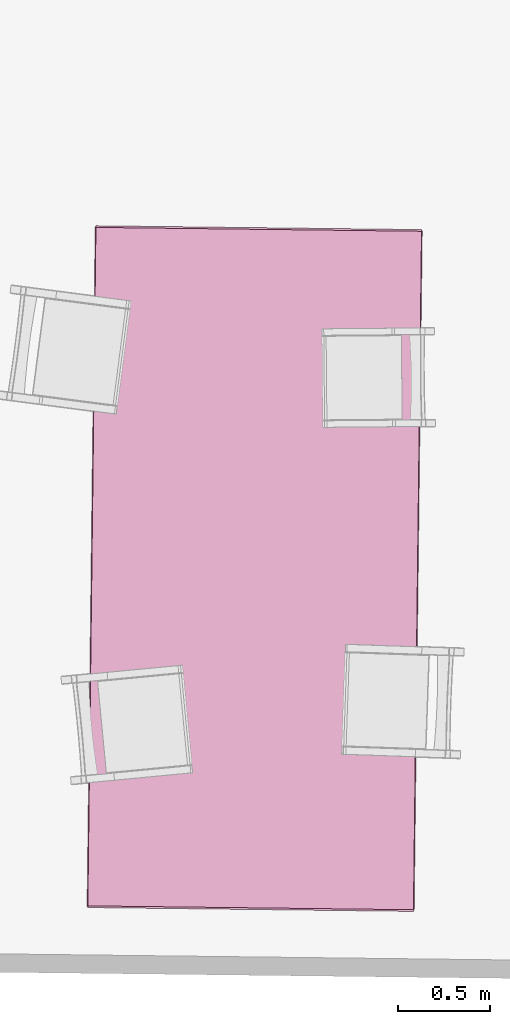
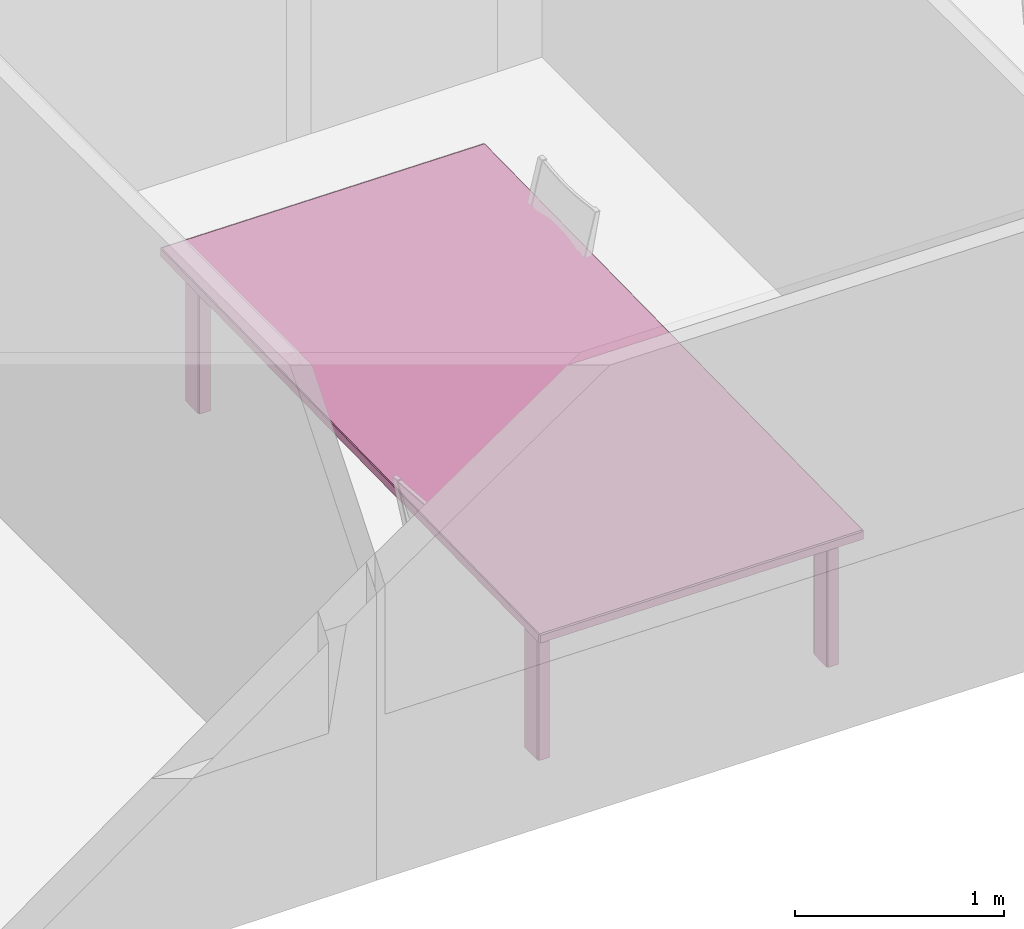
# One storey, part 8 of 26: 1 furniture element.
"""IFC4 building model written with IfcOpenShell, lengths in metres."""

import ifcopenshell
import ifcopenshell.guid

model = None  # the IFC model being written
_history = None  # IfcOwnerHistory: only IFC2X3 demands one
_inside = {}  # id of a spatial element -> (the spatial element, [elements in it])
_under = {}  # id of a project, library or spatial element -> (it, [spatial elements below it])
_declared = {}  # id of a project -> (the project, [libraries it declares])
_typed = {}  # id of a type object -> (the type object, [elements of that type])
_made_of = {}  # id of a material, layer set ... -> (it, [elements and type objects made of it])


def new_model(schema):
    """Start an empty IFC model of exactly this schema.

    Asked for "IFC4X3", IfcOpenShell would pick the latest addendum, in which some entities
    have other attributes; the version numbers below select the first issue.
    IFC2X3 requires an IfcOwnerHistory on every rooted entity: one is made here for all.
    """
    global model, _history
    if schema == "IFC4X3":
        model = ifcopenshell.file(schema_version=(4, 3, 0, 0))
    else:
        model = ifcopenshell.file(schema=schema)
    _inside.clear()
    _under.clear()
    _declared.clear()
    _typed.clear()
    _made_of.clear()
    _history = None
    if model.schema == "IFC2X3":
        org = make("IfcOrganization", Name="unknown")
        user = make(
            "IfcPersonAndOrganization",
            ThePerson=make("IfcPerson", FamilyName="unknown"),
            TheOrganization=org,
        )
        app = make(
            "IfcApplication",
            ApplicationDeveloper=org,
            Version="unknown",
            ApplicationFullName="unknown",
            ApplicationIdentifier="unknown",
        )
        _history = make(
            "IfcOwnerHistory",
            OwningUser=user,
            OwningApplication=app,
            ChangeAction="ADDED",
            CreationDate=0,
        )
    return model


def make(cls, **values):
    """One entity of the class cls with the attributes given. An attribute that is None is left unset."""
    return model.create_entity(
        cls, **{name: value for name, value in values.items() if value is not None}
    )


def rooted(cls, **values):
    """An entity with a GlobalId (a new one), such as an element, a storey or a relation."""
    return make(cls, GlobalId=ifcopenshell.guid.new(), OwnerHistory=_history, **values)


def si_unit(unit_type, name, prefix=None):
    """IfcSIUnit, for example si_unit("LENGTHUNIT", "METRE", prefix="MILLI")."""
    return make("IfcSIUnit", UnitType=unit_type, Prefix=prefix, Name=name)


def assignment(units):
    """IfcUnitAssignment: the units of a project."""
    return None if units is None else make("IfcUnitAssignment", Units=units)


def point(xyz):
    """IfcCartesianPoint."""
    return None if xyz is None else make("IfcCartesianPoint", Coordinates=xyz)


def direction(xyz):
    """IfcDirection."""
    return None if xyz is None else make("IfcDirection", DirectionRatios=xyz)


def frame(location, z_axis=None, x_axis=None):
    """IfcAxis2Placement3D, a coordinate frame: its origin and axes. An axis left out is left unset."""
    return make(
        "IfcAxis2Placement3D",
        Location=point(location),
        Axis=direction(z_axis),
        RefDirection=direction(x_axis),
    )


def origin_with_axes():
    """The frame at (0, 0, 0) with the z axis (0, 0, 1) and the x axis (1, 0, 0) written out."""
    return frame((0.0, 0.0, 0.0), z_axis=(0.0, 0.0, 1.0), x_axis=(1.0, 0.0, 0.0))


def place(relative_to, where):
    """IfcLocalPlacement: puts the frame where relative to a parent placement (None: the world)."""
    return make(
        "IfcLocalPlacement", PlacementRelTo=relative_to, RelativePlacement=where
    )


def context(
    kind, dimensions, precision=None, world=None, true_north=None, identifier=None
):
    """IfcGeometricRepresentationContext, for example the 3D "Model" context."""
    return make(
        "IfcGeometricRepresentationContext",
        ContextIdentifier=identifier,
        ContextType=kind,
        CoordinateSpaceDimension=dimensions,
        Precision=precision,
        WorldCoordinateSystem=world,
        TrueNorth=true_north,
    )


def project(units=None, contexts=None):
    """IfcProject with its units and contexts."""
    return rooted(
        "IfcProject",
        Name="project",
        RepresentationContexts=contexts,
        UnitsInContext=assignment(units),
    )


def spatial(cls, under=None, at=None, **own):
    """A site, building, storey or space (cls), placed at a placement, below another one or the project."""
    s = rooted(cls, ObjectPlacement=at, **own)
    if under is not None:
        _under.setdefault(under.id(), (under, []))[1].append(s)
    return s


def point_list(points):
    """IfcCartesianPointList2D or 3D."""
    cls = (
        "IfcCartesianPointList2D" if len(points[0]) == 2 else "IfcCartesianPointList3D"
    )
    return make(cls, CoordList=points)


def polygons(points, faces, closed=None, point_numbers=None):
    """IfcPolygonalFaceSet: a face is its outer loop, then its inner loops; points numbered from 1."""
    made = []
    for loops in faces:
        if len(loops) == 1:
            made.append(make("IfcIndexedPolygonalFace", CoordIndex=loops[0]))
        else:
            made.append(
                make(
                    "IfcIndexedPolygonalFaceWithVoids",
                    CoordIndex=loops[0],
                    InnerCoordIndices=loops[1:],
                )
            )
    return make(
        "IfcPolygonalFaceSet",
        Coordinates=point_list(points),
        Closed=closed,
        Faces=made,
        PnIndex=point_numbers,
    )


def shape(context_of_items, identifier, shape_type, items):
    """IfcShapeRepresentation: the items that make up one representation, for example the "Body"."""
    return make(
        "IfcShapeRepresentation",
        ContextOfItems=context_of_items,
        RepresentationIdentifier=identifier,
        RepresentationType=shape_type,
        Items=items,
    )


def made_of(thing, what):
    """Note that an element or type object is made of a material, layer set ...; save() writes the relation."""
    if what is not None:
        _made_of.setdefault(what.id(), (what, []))[1].append(thing)
    return thing


def type_object(cls, material=None, **own):
    """A type object (cls), such as IfcWallType, which elements share."""
    return made_of(rooted(cls, **own), material)


def element(
    cls,
    number,
    at=None,
    inside=None,
    cuts=None,
    type_object=None,
    material=None,
    context=None,
    identifier="Body",
    shape_type=None,
    held_by="IfcProductDefinitionShape",
    body=None,
    shapes=None,
    **own,
):
    """One element of the class cls, such as IfcWall. Its Tag is "e" and its number.

    at: its placement. inside: the storey or other place that contains it. cuts: it is an
    opening in that element (IfcRelVoidsElement). A single representation is given by context,
    identifier, shape_type and body (its items); several are given by shapes. held_by: the class
    of the entity that holds the representations. save() writes the other relations.
    """
    e = rooted(cls, Tag="e%d" % number, ObjectPlacement=at, **own)
    if body is not None:
        shapes = [shape(context, identifier, shape_type, body)]
    if shapes is not None:
        e.Representation = make(held_by, Representations=shapes)
    if inside is not None:
        _inside.setdefault(inside.id(), (inside, []))[1].append(e)
    if cuts is not None:
        rooted(
            "IfcRelVoidsElement", RelatingBuildingElement=cuts, RelatedOpeningElement=e
        )
    if type_object is not None:
        _typed.setdefault(type_object.id(), (type_object, []))[1].append(e)
    return made_of(e, material)


def aggregate(whole, parts):
    """IfcRelAggregates: a whole, such as a stair, and the parts it consists of."""
    return rooted("IfcRelAggregates", RelatingObject=whole, RelatedObjects=parts)


def save(model, path):
    """Write the relations noted so far, then the file.

    IfcRelAggregates (storeys below a building ...), IfcRelContainedInSpatialStructure (elements
    in a storey), IfcRelDefinesByType, IfcRelAssociatesMaterial and IfcRelDeclares: one each for
    every whole, place, type object, material and project.
    """
    for whole, parts in _under.values():
        aggregate(whole, parts)
    for where, things in _inside.values():
        rooted(
            "IfcRelContainedInSpatialStructure",
            RelatedElements=things,
            RelatingStructure=where,
        )
    for kind, things in _typed.values():
        rooted("IfcRelDefinesByType", RelatedObjects=things, RelatingType=kind)
    for what, things in _made_of.values():
        rooted("IfcRelAssociatesMaterial", RelatedObjects=things, RelatingMaterial=what)
    for by, libraries in _declared.values():
        rooted("IfcRelDeclares", RelatingContext=by, RelatedDefinitions=libraries)
    model.write(path)


model = new_model("IFC4")

# Units and contexts
model_context = context("Model", 3, precision=1e-05, world=origin_with_axes(), true_north=direction((0.996, -0.093, 0.0)))
ifc_project = project(units=[si_unit("LENGTHUNIT", "METRE"), si_unit("AREAUNIT", "SQUARE_METRE")], contexts=[model_context])

# Site, building, storey, space
site_placement = place(None, origin_with_axes())
site = spatial("IfcSite", under=ifc_project, at=site_placement, Name="Site", CompositionType="ELEMENT")
building_placement = place(site_placement, origin_with_axes())
building = spatial("IfcBuilding", under=site, at=building_placement, Name="Building", CompositionType="ELEMENT")
storey_placement = place(building_placement, frame((0.0, 0.0, 0.0500001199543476), z_axis=(0.0, 0.0, 1.0), x_axis=(1.0, 0.0, 0.0)))
storey = spatial("IfcBuildingStorey", under=building, at=storey_placement, Name="Story 0", CompositionType="ELEMENT", Elevation=0.0500000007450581)
space_placement = place(storey_placement, frame((5.97818655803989, 0.769222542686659, 0.0), z_axis=(0.0, 0.0, 1.0), x_axis=(1.0, 0.0, 0.0)))
space = spatial("IfcSpace", under=storey, at=space_placement, Name="003", CompositionType="ELEMENT")

# Furniture
furniture_type = type_object("IfcFurnitureType", Name="ba008512-6eb1-4f86-9ee1-701c55b127c1", AssemblyPlace="NOTDEFINED", PredefinedType="USERDEFINED")
furniture_placement = place(space_placement, frame((-2.10680193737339, -3.3640239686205, 0.419875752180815), z_axis=(0.0, 0.0, 1.00000002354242), x_axis=(-0.999929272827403, 0.0118987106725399, 0.0)))
element("IfcFurniture", 1, at=furniture_placement, inside=space, type_object=furniture_type, Name="Table", ObjectType="Table", PredefinedType="USERDEFINED", context=model_context, shape_type="Tessellation", body=[
    polygons([(0.8865, 1.8568, 0.3712), (-0.8865, 1.8568, 0.3712), (0.8865, 1.8568, 0.4162), (-0.8865, 1.8568, 0.4162), (0.8865, 1.8568, 0.4162), (-0.8865, 1.8568, 0.3712), (0.7599, -1.7193, 0.3806), (0.7599, -1.5975, 0.3806), (0.7599, -1.7193, -0.4162), (0.7599, -1.5975, -0.4162), (0.7599, -1.7193, -0.4162), (0.7599, -1.5975, 0.3806), (0.8228, -1.7286, 0.3806), (0.7644, -1.7286, 0.3806), (0.8228, -1.7286, -0.4162), (0.7644, -1.7286, -0.4162), (0.8228, -1.7286, -0.4162), (0.7644, -1.7286, 0.3806), (0.8273, -1.5975, 0.3806), (0.8273, -1.7193, 0.3806), (0.8273, -1.5975, -0.4162), (0.8273, -1.7193, -0.4162), (0.8273, -1.5975, -0.4162), (0.8273, -1.7193, 0.3806), (0.7644, -1.5882, 0.3806), (0.8228, -1.5882, 0.3806), (0.7644, -1.5882, -0.4162), (0.8228, -1.5882, -0.4162), (0.7644, -1.5882, -0.4162), (0.8228, -1.5882, 0.3806), (0.7599, 1.7193, 0.3806), (0.7599, 1.7193, -0.4162), (0.7599, 1.5975, 0.3806), (0.7599, 1.5975, -0.4162), (0.7599, 1.5975, 0.3806), (0.7599, 1.7193, -0.4162), (0.8228, 1.7286, 0.3806), (0.8228, 1.7286, -0.4162), (0.7644, 1.7286, 0.3806), (0.7644, 1.7286, -0.4162), (0.7644, 1.7286, 0.3806), (0.8228, 1.7286, -0.4162), (0.8273, 1.5975, 0.3806), (0.8273, 1.5975, -0.4162), (0.8273, 1.7193, 0.3806), (0.8273, 1.7193, -0.4162), (0.8273, 1.7193, 0.3806), (0.8273, 1.5975, -0.4162), (0.7644, 1.5882, 0.3806), (0.7644, 1.5882, -0.4162), (0.8228, 1.5882, 0.3806), (0.8228, 1.5882, -0.4162), (0.8228, 1.5882, 0.3806), (0.7644, 1.5882, -0.4162), (0.891, 1.8475, 0.3712), (0.891, 1.8475, 0.4162), (0.891, -1.8475, 0.3712), (0.891, -1.8475, 0.4162), (0.891, -1.8475, 0.3712), (0.891, 1.8475, 0.4162), (-0.891, 1.8475, 0.4162), (-0.891, 1.8475, 0.3712), (-0.891, -1.8475, 0.4162), (-0.891, -1.8475, 0.3712), (-0.891, -1.8475, 0.4162), (-0.891, 1.8475, 0.3712), (-0.7599, -1.7193, 0.3806), (-0.7599, -1.7193, -0.4162), (-0.7599, -1.5975, 0.3806), (-0.7599, -1.5975, -0.4162), (-0.7599, -1.5975, 0.3806), (-0.7599, -1.7193, -0.4162), (-0.8228, -1.7286, 0.3806), (-0.8228, -1.7286, -0.4162), (-0.7644, -1.7286, 0.3806), (-0.7644, -1.7286, -0.4162), (-0.7644, -1.7286, 0.3806), (-0.8228, -1.7286, -0.4162), (-0.8273, -1.5975, 0.3806), (-0.8273, -1.5975, -0.4162), (-0.8273, -1.7193, 0.3806), (-0.8273, -1.7193, -0.4162), (-0.8273, -1.7193, 0.3806), (-0.8273, -1.5975, -0.4162), (-0.7644, -1.5882, 0.3806), (-0.7644, -1.5882, -0.4162), (-0.8228, -1.5882, 0.3806), (-0.8228, -1.5882, -0.4162), (-0.8228, -1.5882, 0.3806), (-0.7644, -1.5882, -0.4162), (-0.7599, 1.7193, 0.3806), (-0.7599, 1.5975, 0.3806), (-0.7599, 1.7193, -0.4162), (-0.7599, 1.5975, -0.4162), (-0.7599, 1.7193, -0.4162), (-0.7599, 1.5975, 0.3806), (-0.8228, 1.7286, 0.3806), (-0.7644, 1.7286, 0.3806), (-0.8228, 1.7286, -0.4162), (-0.7644, 1.7286, -0.4162), (-0.8228, 1.7286, -0.4162), (-0.7644, 1.7286, 0.3806), (-0.8273, 1.5975, 0.3806), (-0.8273, 1.7193, 0.3806), (-0.8273, 1.5975, -0.4162), (-0.8273, 1.7193, -0.4162), (-0.8273, 1.5975, -0.4162), (-0.8273, 1.7193, 0.3806), (-0.7644, 1.5882, 0.3806), (-0.8228, 1.5882, 0.3806), (-0.7644, 1.5882, -0.4162), (-0.8228, 1.5882, -0.4162), (-0.7644, 1.5882, -0.4162), (-0.8228, 1.5882, 0.3806), (-0.8865, 1.8475, 0.4199), (-0.8865, -1.8475, 0.4199), (0.8865, 1.8475, 0.4199), (0.8865, -1.8475, 0.4199), (0.8865, 1.8475, 0.4199), (-0.8865, -1.8475, 0.4199), (0.8865, -1.8568, 0.3712), (0.8865, -1.8568, 0.4162), (-0.8865, -1.8568, 0.3712), (-0.8865, -1.8568, 0.4162), (-0.8865, -1.8568, 0.3712), (0.8865, -1.8568, 0.4162), (0.8865, -1.8475, 0.3675), (-0.8865, -1.8475, 0.3675), (0.8865, 1.8475, 0.3675), (-0.8865, 1.8475, 0.3675), (0.8865, 1.8475, 0.3675), (-0.8865, -1.8475, 0.3675), (0.8228, -1.7193, 0.3843), (0.8228, -1.5975, 0.3843), (0.7644, -1.7193, 0.3843), (0.7644, -1.5975, 0.3843), (0.7644, -1.7193, 0.3843), (0.8228, -1.5975, 0.3843), (0.8228, -1.5975, -0.4199), (0.8228, -1.7193, -0.4199), (0.7644, -1.5975, -0.4199), (0.7644, -1.7193, -0.4199), (0.7644, -1.5975, -0.4199), (0.8228, -1.7193, -0.4199), (0.8228, 1.7193, -0.4199), (0.8228, 1.5975, -0.4199), (0.7644, 1.7193, -0.4199), (0.7644, 1.5975, -0.4199), (0.7644, 1.7193, -0.4199), (0.8228, 1.5975, -0.4199), (0.8228, 1.5975, 0.3843), (0.8228, 1.7193, 0.3843), (0.7644, 1.5975, 0.3843), (0.7644, 1.7193, 0.3843), (0.7644, 1.5975, 0.3843), (0.8228, 1.7193, 0.3843), (-0.8228, -1.7193, -0.4199), (-0.8228, -1.5975, -0.4199), (-0.7644, -1.7193, -0.4199), (-0.7644, -1.5975, -0.4199), (-0.7644, -1.7193, -0.4199), (-0.8228, -1.5975, -0.4199), (-0.8228, -1.5975, 0.3843), (-0.8228, -1.7193, 0.3843), (-0.7644, -1.5975, 0.3843), (-0.7644, -1.7193, 0.3843), (-0.7644, -1.5975, 0.3843), (-0.8228, -1.7193, 0.3843), (-0.8228, 1.7193, 0.3843), (-0.8228, 1.5975, 0.3843), (-0.7644, 1.7193, 0.3843), (-0.7644, 1.5975, 0.3843), (-0.7644, 1.7193, 0.3843), (-0.8228, 1.5975, 0.3843), (-0.8228, 1.5975, -0.4199), (-0.8228, 1.7193, -0.4199), (-0.7644, 1.5975, -0.4199), (-0.7644, 1.7193, -0.4199), (-0.7644, 1.5975, -0.4199), (-0.8228, 1.7193, -0.4199), (-0.8865, 1.8475, 0.4199), (-0.8865, 1.8568, 0.4162), (-0.891, 1.8475, 0.4162), (0.7644, -1.5975, -0.4199), (0.7599, -1.5975, -0.4162), (0.7644, -1.5882, -0.4162), (0.7644, -1.7193, -0.4199), (0.7644, -1.7286, -0.4162), (0.7599, -1.7193, -0.4162), (0.8228, -1.7193, -0.4199), (0.8273, -1.7193, -0.4162), (0.8228, -1.7286, -0.4162), (0.8228, -1.5975, -0.4199), (0.8228, -1.5882, -0.4162), (0.8273, -1.5975, -0.4162), (0.7644, -1.5975, 0.3843), (0.7644, -1.5882, 0.3806), (0.7599, -1.5975, 0.3806), (0.7644, 1.5882, -0.4162), (0.7599, 1.5975, -0.4162), (0.7644, 1.5975, -0.4199), (0.7644, 1.7193, 0.3843), (0.7644, 1.7286, 0.3806), (0.7599, 1.7193, 0.3806), (0.8228, 1.7193, 0.3843), (0.8273, 1.7193, 0.3806), (0.8228, 1.7286, 0.3806), (0.8228, 1.5975, 0.3843), (0.8228, 1.5882, 0.3806), (0.8273, 1.5975, 0.3806), (0.8865, -1.8568, 0.4162), (0.891, -1.8475, 0.4162), (0.8865, -1.8475, 0.4199), (0.8865, 1.8475, 0.4199), (0.891, 1.8475, 0.4162), (0.8865, 1.8568, 0.4162), (-0.8865, -1.8568, 0.3712), (-0.891, -1.8475, 0.3712), (-0.8865, -1.8475, 0.3675), (-0.8865, 1.8475, 0.3675), (-0.891, 1.8475, 0.3712), (-0.8865, 1.8568, 0.3712), (-0.7644, -1.5882, -0.4162), (-0.7599, -1.5975, -0.4162), (-0.7644, -1.5975, -0.4199), (-0.7644, -1.7193, 0.3843), (-0.7644, -1.7286, 0.3806), (-0.7599, -1.7193, 0.3806), (-0.8228, -1.7193, 0.3843), (-0.8273, -1.7193, 0.3806), (-0.8228, -1.7286, 0.3806), (-0.8228, -1.5975, 0.3843), (-0.8228, -1.5882, 0.3806), (-0.8273, -1.5975, 0.3806), (-0.7644, 1.5975, -0.4199), (-0.7599, 1.5975, -0.4162), (-0.7644, 1.5882, -0.4162), (-0.7644, 1.7193, -0.4199), (-0.7644, 1.7286, -0.4162), (-0.7599, 1.7193, -0.4162), (-0.8228, 1.7193, -0.4199), (-0.8273, 1.7193, -0.4162), (-0.8228, 1.7286, -0.4162), (-0.8228, 1.5975, -0.4199), (-0.8228, 1.5882, -0.4162), (-0.8273, 1.5975, -0.4162), (-0.7644, 1.5975, 0.3843), (-0.7644, 1.5882, 0.3806), (-0.7599, 1.5975, 0.3806), (-0.8865, -1.8568, 0.4162), (-0.8865, -1.8475, 0.4199), (-0.891, -1.8475, 0.4162), (0.8865, -1.8568, 0.3712), (0.8865, -1.8475, 0.3675), (0.891, -1.8475, 0.3712), (0.891, 1.8475, 0.3712), (0.8865, 1.8475, 0.3675), (0.8865, 1.8568, 0.3712), (0.8228, -1.5882, 0.3806), (0.8228, -1.5975, 0.3843), (0.8273, -1.5975, 0.3806), (0.8273, -1.7193, 0.3806), (0.8228, -1.7193, 0.3843), (0.8228, -1.7286, 0.3806), (0.7644, -1.7286, 0.3806), (0.7644, -1.7193, 0.3843), (0.7599, -1.7193, 0.3806), (0.8228, 1.5882, -0.4162), (0.8228, 1.5975, -0.4199), (0.8273, 1.5975, -0.4162), (0.8273, 1.7193, -0.4162), (0.8228, 1.7193, -0.4199), (0.8228, 1.7286, -0.4162), (0.7644, 1.7286, -0.4162), (0.7644, 1.7193, -0.4199), (0.7599, 1.7193, -0.4162), (0.7644, 1.5882, 0.3806), (0.7644, 1.5975, 0.3843), (0.7599, 1.5975, 0.3806), (-0.8228, -1.5882, -0.4162), (-0.8228, -1.5975, -0.4199), (-0.8273, -1.5975, -0.4162), (-0.8273, -1.7193, -0.4162), (-0.8228, -1.7193, -0.4199), (-0.8228, -1.7286, -0.4162), (-0.7644, -1.7286, -0.4162), (-0.7644, -1.7193, -0.4199), (-0.7599, -1.7193, -0.4162), (-0.7644, -1.5882, 0.3806), (-0.7644, -1.5975, 0.3843), (-0.7599, -1.5975, 0.3806), (-0.8228, 1.5882, 0.3806), (-0.8228, 1.5975, 0.3843), (-0.8273, 1.5975, 0.3806), (-0.8273, 1.7193, 0.3806), (-0.8228, 1.7193, 0.3843), (-0.8228, 1.7286, 0.3806), (-0.7644, 1.7286, 0.3806), (-0.7644, 1.7193, 0.3843), (-0.7599, 1.7193, 0.3806), (-0.8865, 1.8568, 0.4162), (-0.8865, 1.8568, 0.3712), (-0.891, 1.8475, 0.4162), (-0.891, 1.8475, 0.3712), (-0.891, 1.8475, 0.4162), (-0.8865, 1.8568, 0.3712), (-0.8865, 1.8568, 0.3712), (0.8865, 1.8568, 0.3712), (-0.8865, 1.8475, 0.3675), (0.8865, 1.8475, 0.3675), (-0.8865, 1.8475, 0.3675), (0.8865, 1.8568, 0.3712), (0.8865, 1.8568, 0.3712), (0.8865, 1.8568, 0.4162), (0.891, 1.8475, 0.3712), (0.891, 1.8475, 0.4162), (0.891, 1.8475, 0.3712), (0.8865, 1.8568, 0.4162), (0.8865, 1.8568, 0.4162), (-0.8865, 1.8568, 0.4162), (0.8865, 1.8475, 0.4199), (-0.8865, 1.8475, 0.4199), (0.8865, 1.8475, 0.4199), (-0.8865, 1.8568, 0.4162), (0.7599, -1.5975, -0.4162), (0.7599, -1.5975, 0.3806), (0.7644, -1.5882, -0.4162), (0.7644, -1.5882, 0.3806), (0.7644, -1.5882, -0.4162), (0.7599, -1.5975, 0.3806), (0.7599, -1.5975, 0.3806), (0.7599, -1.7193, 0.3806), (0.7644, -1.5975, 0.3843), (0.7644, -1.7193, 0.3843), (0.7644, -1.5975, 0.3843), (0.7599, -1.7193, 0.3806), (0.7599, -1.7193, 0.3806), (0.7599, -1.7193, -0.4162), (0.7644, -1.7286, 0.3806), (0.7644, -1.7286, -0.4162), (0.7644, -1.7286, 0.3806), (0.7599, -1.7193, -0.4162), (0.7599, -1.7193, -0.4162), (0.7599, -1.5975, -0.4162), (0.7644, -1.7193, -0.4199), (0.7644, -1.5975, -0.4199), (0.7644, -1.7193, -0.4199), (0.7599, -1.5975, -0.4162), (0.7644, -1.7286, 0.3806), (0.8228, -1.7286, 0.3806), (0.7644, -1.7193, 0.3843), (0.8228, -1.7193, 0.3843), (0.7644, -1.7193, 0.3843), (0.8228, -1.7286, 0.3806), (0.8228, -1.7286, 0.3806), (0.8228, -1.7286, -0.4162), (0.8273, -1.7193, 0.3806), (0.8273, -1.7193, -0.4162), (0.8273, -1.7193, 0.3806), (0.8228, -1.7286, -0.4162), (0.8228, -1.7286, -0.4162), (0.7644, -1.7286, -0.4162), (0.8228, -1.7193, -0.4199), (0.7644, -1.7193, -0.4199), (0.8228, -1.7193, -0.4199), (0.7644, -1.7286, -0.4162), (0.8273, -1.7193, 0.3806), (0.8273, -1.5975, 0.3806), (0.8228, -1.7193, 0.3843), (0.8228, -1.5975, 0.3843), (0.8228, -1.7193, 0.3843), (0.8273, -1.5975, 0.3806), (0.8273, -1.5975, 0.3806), (0.8273, -1.5975, -0.4162), (0.8228, -1.5882, 0.3806), (0.8228, -1.5882, -0.4162), (0.8228, -1.5882, 0.3806), (0.8273, -1.5975, -0.4162), (0.8273, -1.5975, -0.4162), (0.8273, -1.7193, -0.4162), (0.8228, -1.5975, -0.4199), (0.8228, -1.7193, -0.4199), (0.8228, -1.5975, -0.4199), (0.8273, -1.7193, -0.4162), (0.8228, -1.5882, 0.3806), (0.7644, -1.5882, 0.3806), (0.8228, -1.5975, 0.3843), (0.7644, -1.5975, 0.3843), (0.8228, -1.5975, 0.3843), (0.7644, -1.5882, 0.3806), (0.7644, -1.5882, -0.4162), (0.8228, -1.5882, -0.4162), (0.7644, -1.5975, -0.4199), (0.8228, -1.5975, -0.4199), (0.7644, -1.5975, -0.4199), (0.8228, -1.5882, -0.4162), (0.7599, 1.5975, -0.4162), (0.7599, 1.7193, -0.4162), (0.7644, 1.5975, -0.4199), (0.7644, 1.7193, -0.4199), (0.7644, 1.5975, -0.4199), (0.7599, 1.7193, -0.4162), (0.7599, 1.7193, -0.4162), (0.7599, 1.7193, 0.3806), (0.7644, 1.7286, -0.4162), (0.7644, 1.7286, 0.3806), (0.7644, 1.7286, -0.4162), (0.7599, 1.7193, 0.3806), (0.7599, 1.7193, 0.3806), (0.7599, 1.5975, 0.3806), (0.7644, 1.7193, 0.3843), (0.7644, 1.5975, 0.3843), (0.7644, 1.7193, 0.3843), (0.7599, 1.5975, 0.3806), (0.7599, 1.5975, 0.3806), (0.7599, 1.5975, -0.4162), (0.7644, 1.5882, 0.3806), (0.7644, 1.5882, -0.4162), (0.7644, 1.5882, 0.3806), (0.7599, 1.5975, -0.4162), (0.7644, 1.7286, -0.4162), (0.8228, 1.7286, -0.4162), (0.7644, 1.7193, -0.4199), (0.8228, 1.7193, -0.4199), (0.7644, 1.7193, -0.4199), (0.8228, 1.7286, -0.4162), (0.8228, 1.7286, -0.4162), (0.8228, 1.7286, 0.3806), (0.8273, 1.7193, -0.4162), (0.8273, 1.7193, 0.3806), (0.8273, 1.7193, -0.4162), (0.8228, 1.7286, 0.3806), (0.8228, 1.7286, 0.3806), (0.7644, 1.7286, 0.3806), (0.8228, 1.7193, 0.3843), (0.7644, 1.7193, 0.3843), (0.8228, 1.7193, 0.3843), (0.7644, 1.7286, 0.3806), (0.8273, 1.7193, -0.4162), (0.8273, 1.5975, -0.4162), (0.8228, 1.7193, -0.4199), (0.8228, 1.5975, -0.4199), (0.8228, 1.7193, -0.4199), (0.8273, 1.5975, -0.4162), (0.8273, 1.5975, -0.4162), (0.8273, 1.5975, 0.3806), (0.8228, 1.5882, -0.4162), (0.8228, 1.5882, 0.3806), (0.8228, 1.5882, -0.4162), (0.8273, 1.5975, 0.3806), (0.8273, 1.5975, 0.3806), (0.8273, 1.7193, 0.3806), (0.8228, 1.5975, 0.3843), (0.8228, 1.7193, 0.3843), (0.8228, 1.5975, 0.3843), (0.8273, 1.7193, 0.3806), (0.8228, 1.5882, -0.4162), (0.7644, 1.5882, -0.4162), (0.8228, 1.5975, -0.4199), (0.7644, 1.5975, -0.4199), (0.8228, 1.5975, -0.4199), (0.7644, 1.5882, -0.4162), (0.7644, 1.5882, 0.3806), (0.8228, 1.5882, 0.3806), (0.7644, 1.5975, 0.3843), (0.8228, 1.5975, 0.3843), (0.7644, 1.5975, 0.3843), (0.8228, 1.5882, 0.3806), (0.891, -1.8475, 0.4162), (0.891, 1.8475, 0.4162), (0.8865, -1.8475, 0.4199), (0.8865, 1.8475, 0.4199), (0.8865, -1.8475, 0.4199), (0.891, 1.8475, 0.4162), (0.891, 1.8475, 0.3712), (0.891, -1.8475, 0.3712), (0.8865, 1.8475, 0.3675), (0.8865, -1.8475, 0.3675), (0.8865, 1.8475, 0.3675), (0.891, -1.8475, 0.3712), (0.891, -1.8475, 0.3712), (0.891, -1.8475, 0.4162), (0.8865, -1.8568, 0.3712), (0.8865, -1.8568, 0.4162), (0.8865, -1.8568, 0.3712), (0.891, -1.8475, 0.4162), (-0.891, -1.8475, 0.3712), (-0.891, 1.8475, 0.3712), (-0.8865, -1.8475, 0.3675), (-0.8865, 1.8475, 0.3675), (-0.8865, -1.8475, 0.3675), (-0.891, 1.8475, 0.3712), (-0.891, 1.8475, 0.4162), (-0.891, -1.8475, 0.4162), (-0.8865, 1.8475, 0.4199), (-0.8865, -1.8475, 0.4199), (-0.8865, 1.8475, 0.4199), (-0.891, -1.8475, 0.4162), (-0.891, -1.8475, 0.4162), (-0.891, -1.8475, 0.3712), (-0.8865, -1.8568, 0.4162), (-0.8865, -1.8568, 0.3712), (-0.8865, -1.8568, 0.4162), (-0.891, -1.8475, 0.3712), (-0.7599, -1.5975, -0.4162), (-0.7599, -1.7193, -0.4162), (-0.7644, -1.5975, -0.4199), (-0.7644, -1.7193, -0.4199), (-0.7644, -1.5975, -0.4199), (-0.7599, -1.7193, -0.4162), (-0.7599, -1.7193, -0.4162), (-0.7599, -1.7193, 0.3806), (-0.7644, -1.7286, -0.4162), (-0.7644, -1.7286, 0.3806), (-0.7644, -1.7286, -0.4162), (-0.7599, -1.7193, 0.3806), (-0.7599, -1.7193, 0.3806), (-0.7599, -1.5975, 0.3806), (-0.7644, -1.7193, 0.3843), (-0.7644, -1.5975, 0.3843), (-0.7644, -1.7193, 0.3843), (-0.7599, -1.5975, 0.3806), (-0.7599, -1.5975, 0.3806), (-0.7599, -1.5975, -0.4162), (-0.7644, -1.5882, 0.3806), (-0.7644, -1.5882, -0.4162), (-0.7644, -1.5882, 0.3806), (-0.7599, -1.5975, -0.4162), (-0.7644, -1.7286, -0.4162), (-0.8228, -1.7286, -0.4162), (-0.7644, -1.7193, -0.4199), (-0.8228, -1.7193, -0.4199), (-0.7644, -1.7193, -0.4199), (-0.8228, -1.7286, -0.4162), (-0.8228, -1.7286, -0.4162), (-0.8228, -1.7286, 0.3806), (-0.8273, -1.7193, -0.4162), (-0.8273, -1.7193, 0.3806), (-0.8273, -1.7193, -0.4162), (-0.8228, -1.7286, 0.3806), (-0.8228, -1.7286, 0.3806), (-0.7644, -1.7286, 0.3806), (-0.8228, -1.7193, 0.3843), (-0.7644, -1.7193, 0.3843), (-0.8228, -1.7193, 0.3843), (-0.7644, -1.7286, 0.3806), (-0.8273, -1.7193, -0.4162), (-0.8273, -1.5975, -0.4162), (-0.8228, -1.7193, -0.4199), (-0.8228, -1.5975, -0.4199), (-0.8228, -1.7193, -0.4199), (-0.8273, -1.5975, -0.4162), (-0.8273, -1.5975, -0.4162), (-0.8273, -1.5975, 0.3806), (-0.8228, -1.5882, -0.4162), (-0.8228, -1.5882, 0.3806), (-0.8228, -1.5882, -0.4162), (-0.8273, -1.5975, 0.3806), (-0.8273, -1.5975, 0.3806), (-0.8273, -1.7193, 0.3806), (-0.8228, -1.5975, 0.3843), (-0.8228, -1.7193, 0.3843), (-0.8228, -1.5975, 0.3843), (-0.8273, -1.7193, 0.3806), (-0.8228, -1.5882, -0.4162), (-0.7644, -1.5882, -0.4162), (-0.8228, -1.5975, -0.4199), (-0.7644, -1.5975, -0.4199), (-0.8228, -1.5975, -0.4199), (-0.7644, -1.5882, -0.4162), (-0.7644, -1.5882, 0.3806), (-0.8228, -1.5882, 0.3806), (-0.7644, -1.5975, 0.3843), (-0.8228, -1.5975, 0.3843), (-0.7644, -1.5975, 0.3843), (-0.8228, -1.5882, 0.3806), (-0.7599, 1.5975, -0.4162), (-0.7599, 1.5975, 0.3806), (-0.7644, 1.5882, -0.4162), (-0.7644, 1.5882, 0.3806), (-0.7644, 1.5882, -0.4162), (-0.7599, 1.5975, 0.3806), (-0.7599, 1.5975, 0.3806), (-0.7599, 1.7193, 0.3806), (-0.7644, 1.5975, 0.3843), (-0.7644, 1.7193, 0.3843), (-0.7644, 1.5975, 0.3843), (-0.7599, 1.7193, 0.3806), (-0.7599, 1.7193, 0.3806), (-0.7599, 1.7193, -0.4162), (-0.7644, 1.7286, 0.3806), (-0.7644, 1.7286, -0.4162), (-0.7644, 1.7286, 0.3806), (-0.7599, 1.7193, -0.4162), (-0.7599, 1.7193, -0.4162), (-0.7599, 1.5975, -0.4162), (-0.7644, 1.7193, -0.4199), (-0.7644, 1.5975, -0.4199), (-0.7644, 1.7193, -0.4199), (-0.7599, 1.5975, -0.4162), (-0.7644, 1.7286, 0.3806), (-0.8228, 1.7286, 0.3806), (-0.7644, 1.7193, 0.3843), (-0.8228, 1.7193, 0.3843), (-0.7644, 1.7193, 0.3843), (-0.8228, 1.7286, 0.3806), (-0.8228, 1.7286, 0.3806), (-0.8228, 1.7286, -0.4162), (-0.8273, 1.7193, 0.3806), (-0.8273, 1.7193, -0.4162), (-0.8273, 1.7193, 0.3806), (-0.8228, 1.7286, -0.4162), (-0.8228, 1.7286, -0.4162), (-0.7644, 1.7286, -0.4162), (-0.8228, 1.7193, -0.4199), (-0.7644, 1.7193, -0.4199), (-0.8228, 1.7193, -0.4199), (-0.7644, 1.7286, -0.4162), (-0.8273, 1.7193, 0.3806), (-0.8273, 1.5975, 0.3806), (-0.8228, 1.7193, 0.3843), (-0.8228, 1.5975, 0.3843), (-0.8228, 1.7193, 0.3843), (-0.8273, 1.5975, 0.3806), (-0.8273, 1.5975, 0.3806), (-0.8273, 1.5975, -0.4162), (-0.8228, 1.5882, 0.3806), (-0.8228, 1.5882, -0.4162), (-0.8228, 1.5882, 0.3806), (-0.8273, 1.5975, -0.4162), (-0.8273, 1.5975, -0.4162), (-0.8273, 1.7193, -0.4162), (-0.8228, 1.5975, -0.4199), (-0.8228, 1.7193, -0.4199), (-0.8228, 1.5975, -0.4199), (-0.8273, 1.7193, -0.4162), (-0.8228, 1.5882, 0.3806), (-0.7644, 1.5882, 0.3806), (-0.8228, 1.5975, 0.3843), (-0.7644, 1.5975, 0.3843), (-0.8228, 1.5975, 0.3843), (-0.7644, 1.5882, 0.3806), (-0.7644, 1.5882, -0.4162), (-0.8228, 1.5882, -0.4162), (-0.7644, 1.5975, -0.4199), (-0.8228, 1.5975, -0.4199), (-0.7644, 1.5975, -0.4199), (-0.8228, 1.5882, -0.4162), (0.8865, -1.8475, 0.4199), (-0.8865, -1.8475, 0.4199), (0.8865, -1.8568, 0.4162), (-0.8865, -1.8568, 0.4162), (0.8865, -1.8568, 0.4162), (-0.8865, -1.8475, 0.4199), (0.8865, -1.8568, 0.3712), (-0.8865, -1.8568, 0.3712), (0.8865, -1.8475, 0.3675), (-0.8865, -1.8475, 0.3675), (0.8865, -1.8475, 0.3675), (-0.8865, -1.8568, 0.3712)], [[[1, 2, 3]], [[4, 5, 6]], [[7, 8, 9]], [[10, 11, 12]], [[13, 14, 15]], [[16, 17, 18]], [[19, 20, 21]], [[22, 23, 24]], [[25, 26, 27]], [[28, 29, 30]], [[31, 32, 33]], [[34, 35, 36]], [[37, 38, 39]], [[40, 41, 42]], [[43, 44, 45]], [[46, 47, 48]], [[49, 50, 51]], [[52, 53, 54]], [[55, 56, 57]], [[58, 59, 60]], [[61, 62, 63]], [[64, 65, 66]], [[67, 68, 69]], [[70, 71, 72]], [[73, 74, 75]], [[76, 77, 78]], [[79, 80, 81]], [[82, 83, 84]], [[85, 86, 87]], [[88, 89, 90]], [[91, 92, 93]], [[94, 95, 96]], [[97, 98, 99]], [[100, 101, 102]], [[103, 104, 105]], [[106, 107, 108]], [[109, 110, 111]], [[112, 113, 114]], [[115, 116, 117]], [[118, 119, 120]], [[121, 122, 123]], [[124, 125, 126]], [[127, 128, 129]], [[130, 131, 132]], [[133, 134, 135]], [[136, 137, 138]], [[139, 140, 141]], [[142, 143, 144]], [[145, 146, 147]], [[148, 149, 150]], [[151, 152, 153]], [[154, 155, 156]], [[157, 158, 159]], [[160, 161, 162]], [[163, 164, 165]], [[166, 167, 168]], [[169, 170, 171]], [[172, 173, 174]], [[175, 176, 177]], [[178, 179, 180]], [[181, 182, 183]], [[184, 185, 186]], [[187, 188, 189]], [[190, 191, 192]], [[193, 194, 195]], [[196, 197, 198]], [[199, 200, 201]], [[202, 203, 204]], [[205, 206, 207]], [[208, 209, 210]], [[211, 212, 213]], [[214, 215, 216]], [[217, 218, 219]], [[220, 221, 222]], [[223, 224, 225]], [[226, 227, 228]], [[229, 230, 231]], [[232, 233, 234]], [[235, 236, 237]], [[238, 239, 240]], [[241, 242, 243]], [[244, 245, 246]], [[247, 248, 249]], [[250, 251, 252]], [[253, 254, 255]], [[256, 257, 258]], [[259, 260, 261]], [[262, 263, 264]], [[265, 266, 267]], [[268, 269, 270]], [[271, 272, 273]], [[274, 275, 276]], [[277, 278, 279]], [[280, 281, 282]], [[283, 284, 285]], [[286, 287, 288]], [[289, 290, 291]], [[292, 293, 294]], [[295, 296, 297]], [[298, 299, 300]], [[301, 302, 303]], [[304, 305, 306]], [[307, 308, 309]], [[310, 311, 312]], [[313, 314, 315]], [[316, 317, 318]], [[319, 320, 321]], [[322, 323, 324]], [[325, 326, 327]], [[328, 329, 330]], [[331, 332, 333]], [[334, 335, 336]], [[337, 338, 339]], [[340, 341, 342]], [[343, 344, 345]], [[346, 347, 348]], [[349, 350, 351]], [[352, 353, 354]], [[355, 356, 357]], [[358, 359, 360]], [[361, 362, 363]], [[364, 365, 366]], [[367, 368, 369]], [[370, 371, 372]], [[373, 374, 375]], [[376, 377, 378]], [[379, 380, 381]], [[382, 383, 384]], [[385, 386, 387]], [[388, 389, 390]], [[391, 392, 393]], [[394, 395, 396]], [[397, 398, 399]], [[400, 401, 402]], [[403, 404, 405]], [[406, 407, 408]], [[409, 410, 411]], [[412, 413, 414]], [[415, 416, 417]], [[418, 419, 420]], [[421, 422, 423]], [[424, 425, 426]], [[427, 428, 429]], [[430, 431, 432]], [[433, 434, 435]], [[436, 437, 438]], [[439, 440, 441]], [[442, 443, 444]], [[445, 446, 447]], [[448, 449, 450]], [[451, 452, 453]], [[454, 455, 456]], [[457, 458, 459]], [[460, 461, 462]], [[463, 464, 465]], [[466, 467, 468]], [[469, 470, 471]], [[472, 473, 474]], [[475, 476, 477]], [[478, 479, 480]], [[481, 482, 483]], [[484, 485, 486]], [[487, 488, 489]], [[490, 491, 492]], [[493, 494, 495]], [[496, 497, 498]], [[499, 500, 501]], [[502, 503, 504]], [[505, 506, 507]], [[508, 509, 510]], [[511, 512, 513]], [[514, 515, 516]], [[517, 518, 519]], [[520, 521, 522]], [[523, 524, 525]], [[526, 527, 528]], [[529, 530, 531]], [[532, 533, 534]], [[535, 536, 537]], [[538, 539, 540]], [[541, 542, 543]], [[544, 545, 546]], [[547, 548, 549]], [[550, 551, 552]], [[553, 554, 555]], [[556, 557, 558]], [[559, 560, 561]], [[562, 563, 564]], [[565, 566, 567]], [[568, 569, 570]], [[571, 572, 573]], [[574, 575, 576]], [[577, 578, 579]], [[580, 581, 582]], [[583, 584, 585]], [[586, 587, 588]], [[589, 590, 591]], [[592, 593, 594]], [[595, 596, 597]], [[598, 599, 600]], [[601, 602, 603]], [[604, 605, 606]], [[607, 608, 609]], [[610, 611, 612]], [[613, 614, 615]], [[616, 617, 618]], [[619, 620, 621]], [[622, 623, 624]], [[625, 626, 627]], [[628, 629, 630]], [[631, 632, 633]], [[634, 635, 636]], [[637, 638, 639]], [[640, 641, 642]], [[643, 644, 645]], [[646, 647, 648]], [[649, 650, 651]], [[652, 653, 654]], [[655, 656, 657]], [[658, 659, 660]]]),
])

save(model, "model.ifc")
